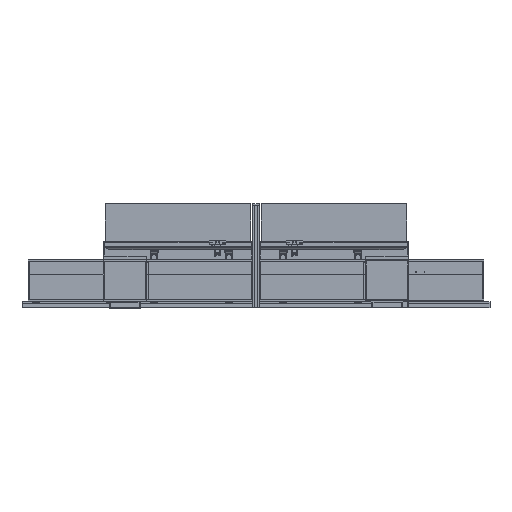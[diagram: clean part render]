
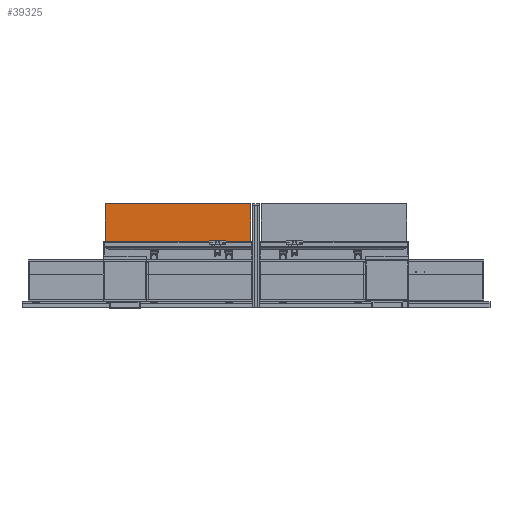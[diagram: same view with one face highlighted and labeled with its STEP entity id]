
A CAD part, top view. The second image highlights one B-rep face of the part: STEP entity #39325.
In plain terms, the highlighted planar face has unit normal (0, 0, 1).
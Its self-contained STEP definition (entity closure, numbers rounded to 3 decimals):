
#2023=CIRCLE('',#42524,0.5);
#2026=CIRCLE('',#42529,0.5);
#6279=FACE_OUTER_BOUND('',#8557,.T.);
#8557=EDGE_LOOP('',(#28662,#28663,#28664,#28665,#28666,#28667,#28668,#28669,
#28670,#28671));
#11194=LINE('',#59736,#14952);
#11201=LINE('',#59754,#14959);
#11202=LINE('',#59757,#14960);
#11207=LINE('',#59766,#14965);
#11210=LINE('',#59772,#14968);
#11211=LINE('',#59775,#14969);
#11215=LINE('',#59781,#14973);
#11217=LINE('',#59785,#14975);
#14952=VECTOR('',#47845,0.394);
#14959=VECTOR('',#47860,0.394);
#14960=VECTOR('',#47863,0.394);
#14965=VECTOR('',#47870,0.394);
#14968=VECTOR('',#47875,0.394);
#14969=VECTOR('',#47878,0.394);
#14973=VECTOR('',#47884,0.394);
#14975=VECTOR('',#47890,0.394);
#18521=VERTEX_POINT('',#59726);
#18522=VERTEX_POINT('',#59727);
#18525=VERTEX_POINT('',#59735);
#18529=VERTEX_POINT('',#59744);
#18530=VERTEX_POINT('',#59746);
#18532=VERTEX_POINT('',#59752);
#18533=VERTEX_POINT('',#59756);
#18536=VERTEX_POINT('',#59764);
#18538=VERTEX_POINT('',#59770);
#18539=VERTEX_POINT('',#59774);
#22304=EDGE_CURVE('',#18521,#18522,#2023,.T.);
#22308=EDGE_CURVE('',#18525,#18522,#11194,.T.);
#22313=EDGE_CURVE('',#18529,#18530,#2026,.T.);
#22317=EDGE_CURVE('',#18532,#18529,#11201,.T.);
#22318=EDGE_CURVE('',#18533,#18530,#11202,.T.);
#22323=EDGE_CURVE('',#18521,#18536,#11207,.T.);
#22326=EDGE_CURVE('',#18536,#18538,#11210,.T.);
#22327=EDGE_CURVE('',#18533,#18539,#11211,.T.);
#22331=EDGE_CURVE('',#18539,#18538,#11215,.T.);
#22333=EDGE_CURVE('',#18532,#18525,#11217,.T.);
#28662=ORIENTED_EDGE('',*,*,#22333,.T.);
#28663=ORIENTED_EDGE('',*,*,#22308,.T.);
#28664=ORIENTED_EDGE('',*,*,#22304,.F.);
#28665=ORIENTED_EDGE('',*,*,#22323,.T.);
#28666=ORIENTED_EDGE('',*,*,#22326,.T.);
#28667=ORIENTED_EDGE('',*,*,#22331,.F.);
#28668=ORIENTED_EDGE('',*,*,#22327,.F.);
#28669=ORIENTED_EDGE('',*,*,#22318,.T.);
#28670=ORIENTED_EDGE('',*,*,#22313,.F.);
#28671=ORIENTED_EDGE('',*,*,#22317,.F.);
#37784=PLANE('',#42537);
#39325=ADVANCED_FACE('',(#6279),#37784,.T.);
#42524=AXIS2_PLACEMENT_3D('',#59728,#47837,#47838);
#42529=AXIS2_PLACEMENT_3D('',#59747,#47853,#47854);
#42537=AXIS2_PLACEMENT_3D('',#59784,#47888,#47889);
#47837=DIRECTION('center_axis',(0.,0.,1.));
#47838=DIRECTION('ref_axis',(-0.707,0.707,0.));
#47845=DIRECTION('',(0.,1.,0.));
#47853=DIRECTION('center_axis',(0.,0.,1.));
#47854=DIRECTION('ref_axis',(0.707,0.707,0.));
#47860=DIRECTION('',(0.,1.,0.));
#47863=DIRECTION('',(1.,0.,0.));
#47870=DIRECTION('',(1.,0.,0.));
#47875=DIRECTION('',(0.,1.,0.));
#47878=DIRECTION('',(0.,1.,0.));
#47884=DIRECTION('',(1.,0.,0.));
#47888=DIRECTION('center_axis',(0.,0.,1.));
#47889=DIRECTION('ref_axis',(1.,0.,0.));
#47890=DIRECTION('',(1.,0.,0.));
#59726=CARTESIAN_POINT('',(66.,32.,-0.563));
#59727=CARTESIAN_POINT('',(65.5,31.5,-0.563));
#59728=CARTESIAN_POINT('Origin',(66.,31.5,-0.563));
#59735=CARTESIAN_POINT('',(65.5,31.25,-0.563));
#59736=CARTESIAN_POINT('',(65.5,31.25,-0.563));
#59744=CARTESIAN_POINT('',(6.5,31.5,-0.563));
#59746=CARTESIAN_POINT('',(6.,32.,-0.562));
#59747=CARTESIAN_POINT('Origin',(6.,31.5,-0.563));
#59752=CARTESIAN_POINT('',(6.5,31.25,-0.563));
#59754=CARTESIAN_POINT('',(6.5,31.25,-0.563));
#59756=CARTESIAN_POINT('',(1.,32.,-0.562));
#59757=CARTESIAN_POINT('',(1.,32.,-0.562));
#59764=CARTESIAN_POINT('',(71.,32.,-0.563));
#59766=CARTESIAN_POINT('',(1.,32.,-0.562));
#59770=CARTESIAN_POINT('',(71.,50.,-0.563));
#59772=CARTESIAN_POINT('',(71.,32.,-0.563));
#59774=CARTESIAN_POINT('',(1.,50.,-0.562));
#59775=CARTESIAN_POINT('',(1.,32.,-0.562));
#59781=CARTESIAN_POINT('',(1.,50.,-0.562));
#59784=CARTESIAN_POINT('Origin',(6.5,31.25,-0.563));
#59785=CARTESIAN_POINT('',(6.5,31.25,-0.563));
